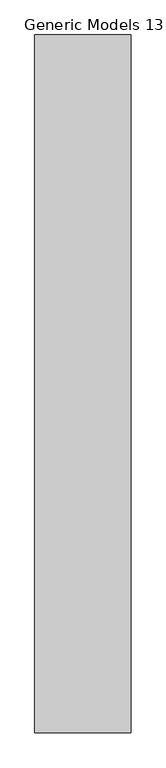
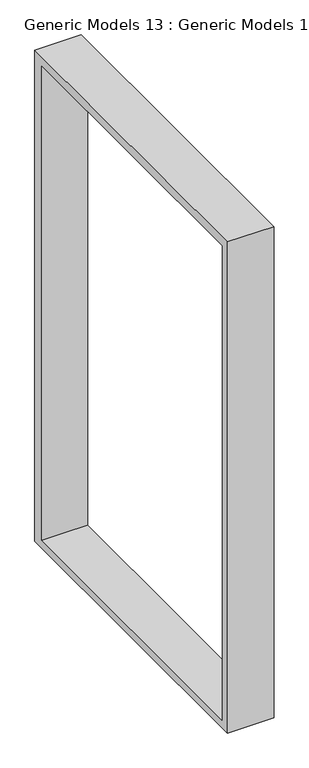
"""IFC4 building model written with IfcOpenShell, lengths in millimetres: proxy geometry, Generic Models 13 : Generic Models 13."""

from ifc_helpers import new_model, si_unit, frame, origin, place, context, project, spatial, polyline, outline, extrude, source, transform, mapped, element, save


def generic_models_13_generic_models_13_9aa85cf1(model_context):
    return source(origin(), model_context, "Body", "SweptSolid", [
        extrude(outline(polyline([(8496.7661592, 2700.0), (8496.7661592, 60.0), (6796.7661592, 60.0), (6796.7661592, 2700.0), (8496.7661592, 2700.0)]), holes=[polyline([(8438.4977909, 2650.0), (6846.7661592, 2650.0), (6846.7661592, 100.0), (8438.4977909, 100.0), (8438.4977909, 2650.0)])]), frame((12502.5059923, 0.0, 0.0), z_axis=(1.0, 0.0, 0.0), x_axis=(0.0, 1.0, 0.0)), (0.0, 0.0, 1.0), 234.99412),
    ])


if __name__ == "__main__":
    model = new_model("IFC4")
    model_context = context("Model", 3, world=origin())
    ifc_project = project(units=[si_unit("LENGTHUNIT", "METRE", prefix="MILLI")], contexts=[model_context])
    site = spatial("IfcSite", under=ifc_project)
    building = spatial("IfcBuilding", under=site)
    placement = place(None, origin())
    generic_models_13_generic_models_13_shape = generic_models_13_generic_models_13_9aa85cf1(model_context)
    element("IfcBuildingElementProxy", 1, Name="Generic Models 13 : Generic Models 13", ObjectType="Generic Models 13 : Generic Models 13", at=placement, inside=building, context=model_context, shape_type="MappedRepresentation", body=[
        mapped(generic_models_13_generic_models_13_shape, transform((0.0, 0.0, 0.0), x_axis=(1.0, 0.0, 0.0), y_axis=(0.0, 1.0, 0.0), z_axis=(0.0, 0.0, 1.0))),
    ])
    save(model, "model.ifc")
